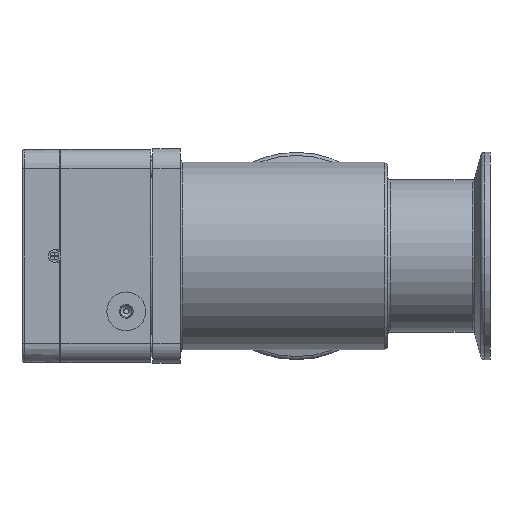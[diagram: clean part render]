
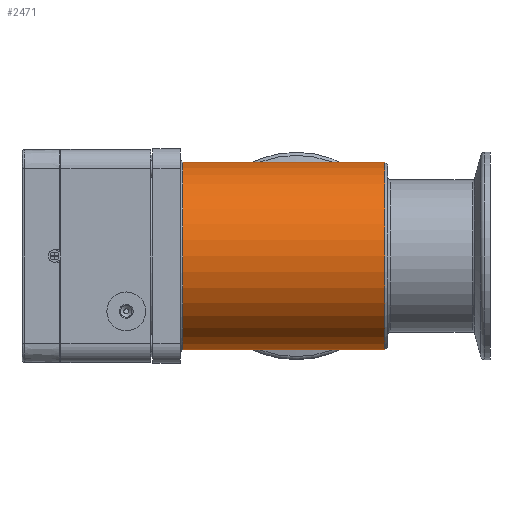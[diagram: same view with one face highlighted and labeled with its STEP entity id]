
A CAD part, left-side view. The second image highlights one B-rep face of the part: STEP entity #2471.
In plain terms, the highlighted cylindrical face has radius 33.95 mm (diameter 67.9 mm), a full revolution.
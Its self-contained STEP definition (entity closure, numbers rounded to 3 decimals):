
#2174=CYLINDRICAL_SURFACE('',#11042,33.95);
#2253=B_SPLINE_CURVE_WITH_KNOTS('',3,(#14932,#14933,#14934,#14935,#14936,
#14937,#14938,#14939,#14940,#14941,#14942,#14943,#14944,#14945,#14946,#14947,
#14948,#14949,#14950,#14951,#14952,#14953,#14954,#14955,#14956,#14957,#14958,
#14959,#14960,#14961,#14962,#14963,#14964,#14965),.UNSPECIFIED.,.T.,.F.,
(2,2,2,2,2,2,2,2,2,2,2,2,2,2,2,2,2,2,2),(-0.062,0.,0.063,0.125,
0.188,0.25,0.313,0.375,0.438,0.5,0.563,0.625,0.688,0.75,0.813,0.875,
0.938,1.,1.063),.UNSPECIFIED.);
#2471=ADVANCED_FACE('',(#3776,#3777,#3778),#2174,.T.);
#3355=CIRCLE('',#11040,33.95);
#3356=CIRCLE('',#11041,33.95);
#3776=FACE_BOUND('',#4215,.T.);
#3777=FACE_BOUND('',#4216,.T.);
#3778=FACE_BOUND('',#4217,.T.);
#4215=EDGE_LOOP('',(#5109));
#4216=EDGE_LOOP('',(#5110));
#4217=EDGE_LOOP('',(#5111));
#5109=ORIENTED_EDGE('',*,*,#8333,.T.);
#5110=ORIENTED_EDGE('',*,*,#8334,.T.);
#5111=ORIENTED_EDGE('',*,*,#8335,.F.);
#7440=VERTEX_POINT('',#14929);
#7441=VERTEX_POINT('',#14931);
#7442=VERTEX_POINT('',#14966);
#8333=EDGE_CURVE('',#7440,#7440,#3355,.T.);
#8334=EDGE_CURVE('',#7441,#7441,#3356,.T.);
#8335=EDGE_CURVE('',#7442,#7442,#2253,.T.);
#11040=AXIS2_PLACEMENT_3D('',#14928,#12161,#12162);
#11041=AXIS2_PLACEMENT_3D('',#14930,#12163,#12164);
#11042=AXIS2_PLACEMENT_3D('',#14967,#12165,#12166);
#12161=DIRECTION('',(1.,0.,0.));
#12162=DIRECTION('',(0.,0.,1.));
#12163=DIRECTION('',(-1.,0.,0.));
#12164=DIRECTION('',(0.,0.,1.));
#12165=DIRECTION('',(-1.,0.,0.));
#12166=DIRECTION('',(0.,0.,1.));
#14928=CARTESIAN_POINT('',(38.,0.,0.));
#14929=CARTESIAN_POINT('',(38.,0.,33.95));
#14930=CARTESIAN_POINT('',(111.025,0.,0.));
#14931=CARTESIAN_POINT('',(111.025,0.,33.95));
#14932=CARTESIAN_POINT('',(73.462,22.97,-25.));
#14933=CARTESIAN_POINT('',(66.538,22.97,-25.));
#14934=CARTESIAN_POINT('',(63.217,23.795,-24.276));
#14935=CARTESIAN_POINT('',(57.299,26.105,-21.772));
#14936=CARTESIAN_POINT('',(54.674,27.556,-19.999));
#14937=CARTESIAN_POINT('',(50.205,30.27,-15.589));
#14938=CARTESIAN_POINT('',(48.369,31.538,-12.958));
#14939=CARTESIAN_POINT('',(45.756,33.385,-6.929));
#14940=CARTESIAN_POINT('',(45.011,33.942,-3.504));
#14941=CARTESIAN_POINT('',(44.989,33.958,3.342));
#14942=CARTESIAN_POINT('',(45.703,33.423,6.749));
#14943=CARTESIAN_POINT('',(48.285,31.596,12.819));
#14944=CARTESIAN_POINT('',(50.132,30.318,15.499));
#14945=CARTESIAN_POINT('',(54.611,27.591,19.954));
#14946=CARTESIAN_POINT('',(57.215,26.147,21.724));
#14947=CARTESIAN_POINT('',(63.139,23.817,24.255));
#14948=CARTESIAN_POINT('',(66.496,22.98,24.99));
#14949=CARTESIAN_POINT('',(73.367,22.959,25.009));
#14950=CARTESIAN_POINT('',(76.766,23.79,24.28));
#14951=CARTESIAN_POINT('',(82.679,26.095,21.784));
#14952=CARTESIAN_POINT('',(85.316,27.551,20.006));
#14953=CARTESIAN_POINT('',(89.783,30.262,15.604));
#14954=CARTESIAN_POINT('',(91.639,31.543,12.949));
#14955=CARTESIAN_POINT('',(94.26,33.396,6.883));
#14956=CARTESIAN_POINT('',(94.989,33.942,3.521));
#14957=CARTESIAN_POINT('',(95.01,33.958,-3.368));
#14958=CARTESIAN_POINT('',(94.291,33.419,-6.767));
#14959=CARTESIAN_POINT('',(91.707,31.591,-12.832));
#14960=CARTESIAN_POINT('',(89.86,30.313,-15.51));
#14961=CARTESIAN_POINT('',(85.373,27.582,-19.967));
#14962=CARTESIAN_POINT('',(82.784,26.144,-21.728));
#14963=CARTESIAN_POINT('',(76.814,23.801,-24.271));
#14964=CARTESIAN_POINT('',(73.462,22.97,-25.));
#14965=CARTESIAN_POINT('',(66.538,22.97,-25.));
#14966=CARTESIAN_POINT('',(70.,22.97,-25.));
#14967=CARTESIAN_POINT('',(0.,0.,0.));
